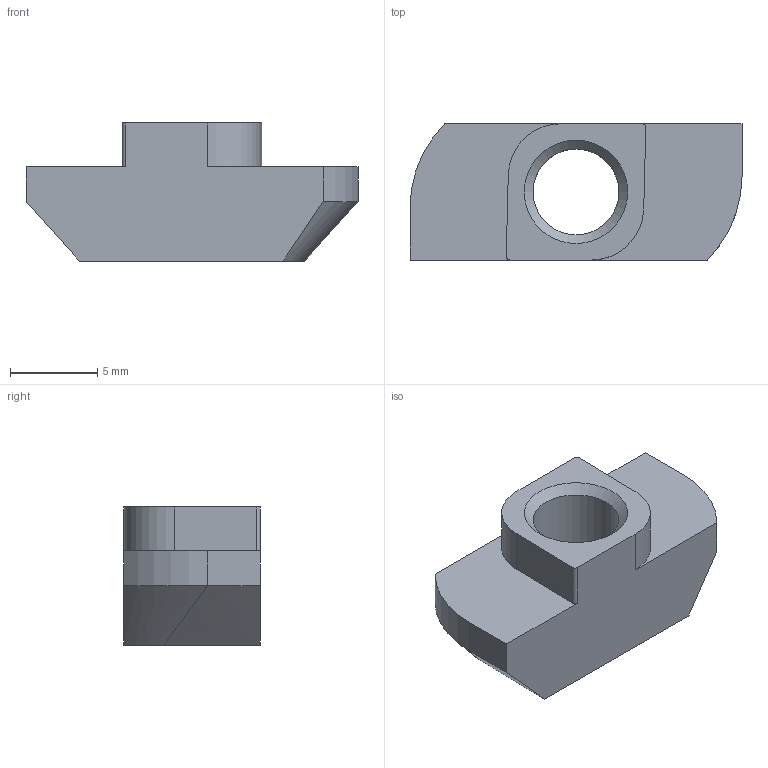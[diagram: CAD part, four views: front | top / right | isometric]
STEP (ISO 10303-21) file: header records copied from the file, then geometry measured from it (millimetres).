
FILE_DESCRIPTION((''),'2;1');
FILE_NAME('E:\catalogue and flyer\Profile catalogue 2015\Accessories JE info\Accessories-JE step file 31MAr16\JE-RN6-8_4040.stp','2016-03-31T16:35:30',('h029'),(''),'Autodesk Inventor 11','Autodesk Inventor 11','');
FILE_SCHEMA(('AUTOMOTIVE_DESIGN { 1 0 10303 214 1 1 1 1 }'));
Length unit declared in the file: millimetre
Products named in the file (1): JE-RN6-8_4040
Bounding box: 19 x 7.8 x 7.9 mm (x, y, z)
Volume: 683.1 mm3; surface area: 661.7 mm2
Topology: 1 solids, 1 shells, 22 faces, 58 edges, 38 vertices
Faces by surface type: plane 10, cylinder 6, bspline 5, cone 1
Entity records: 821 total; most frequent: CARTESIAN_POINT 277, ORIENTED_EDGE 110, DIRECTION 99, EDGE_CURVE 55, VERTEX_POINT 37, AXIS2_PLACEMENT_3D 33, VECTOR 33, LINE 33
